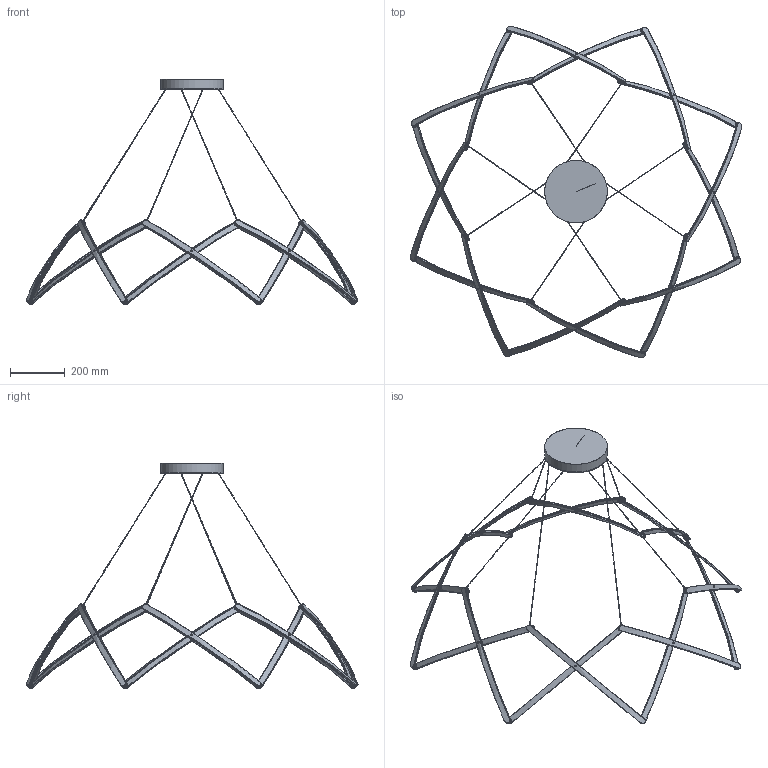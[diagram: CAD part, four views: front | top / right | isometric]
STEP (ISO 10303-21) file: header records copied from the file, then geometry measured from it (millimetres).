
FILE_DESCRIPTION(/* description */ (''),/* implementation_level */ '2;1');
FILE_NAME(/* name */ 'STELLA16 FLAT POS 4',/* time_stamp */ '2024-05-06T13:23:25-07:00',/* author */ (''),/* organization */ (''),/* preprocessor_version */ 'ST-DEVELOPER v18',/* originating_system */ '',/* authorisation */ '');
FILE_SCHEMA (('AUTOMOTIVE_DESIGN { 1 0 10303 214 3 1 1 }'));
Bounding box: 1210.15 x 1210.15 x 823.42 mm (x, y, z)
Surface area: 671890.8 mm2 (no closed solid volume)
Topology: 0 solids, 2007 shells, 2007 faces, 9649 edges, 9507 vertices
Faces by surface type: bspline 2007
Entity records: 155842 total; most frequent: CARTESIAN_POINT 108151, ORIENTED_EDGE 9709, EDGE_CURVE 9607, VERTEX_POINT 9507, B_SPLINE_CURVE_WITH_KNOTS 4631, EDGE_LOOP 2175, STYLED_ITEM 2007, FACE_OUTER_BOUND 2007
